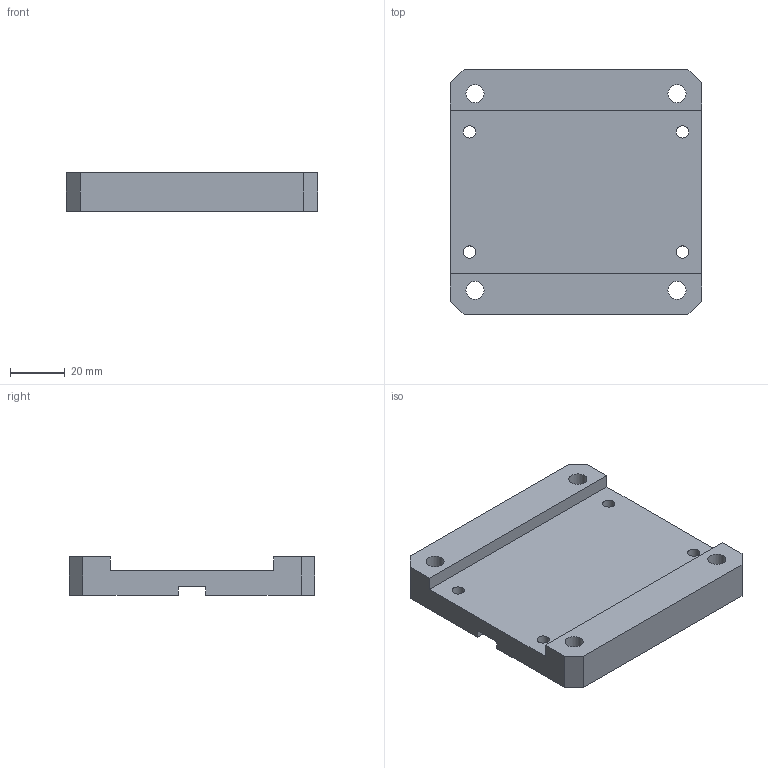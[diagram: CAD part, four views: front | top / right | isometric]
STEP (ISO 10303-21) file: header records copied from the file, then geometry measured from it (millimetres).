
FILE_DESCRIPTION(/* description */ (''),/* implementation_level */ '2;1');
FILE_NAME(/* name */ 'C:\Users\PC-1-10\Desktop\630305E1001\630305E1001-베이스.stp',/* time_stamp */ '2023-03-18T10:15:44+09:00',/* author */ ('PC-1-10'),/* organization */ (''),/* preprocessor_version */ 'ST-DEVELOPER v16.1',/* originating_system */ 'Autodesk Inventor 2016',/* authorisation */ '');
FILE_SCHEMA (('AUTOMOTIVE_DESIGN { 1 0 10303 214 3 1 1 }'));
Length unit declared in the file: millimetre
Products named in the file (1): 부품1
Bounding box: 92 x 90 x 14 mm (x, y, z)
Volume: 81766.8 mm3; surface area: 23666.6 mm2
Topology: 1 solids, 1 shells, 34 faces, 88 edges, 60 vertices
Faces by surface type: plane 22, cylinder 12
Full cylindrical faces by diameter (mm): 4.5 x4, 6.6 x4, 8 x4
Entity records: 1008 total; most frequent: DIRECTION 166, CARTESIAN_POINT 163, ORIENTED_EDGE 144, EDGE_CURVE 72, EDGE_LOOP 66, AXIS2_PLACEMENT_3D 59, VERTEX_POINT 56, LINE 48
